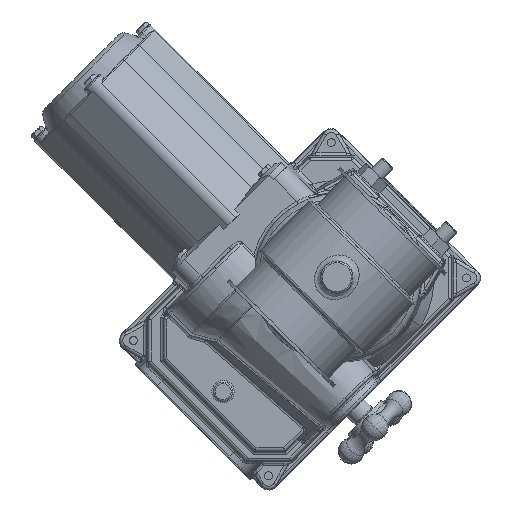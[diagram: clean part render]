
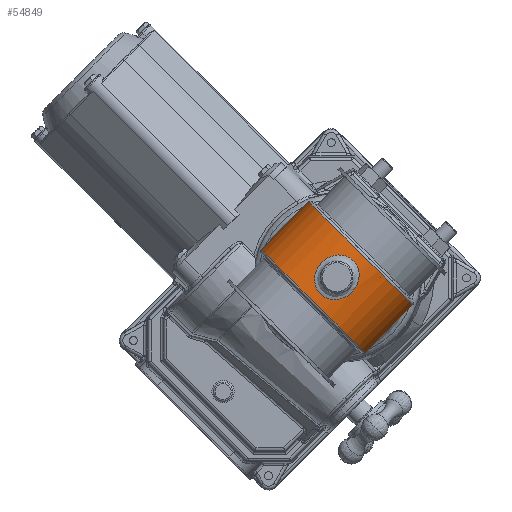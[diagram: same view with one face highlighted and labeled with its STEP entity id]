
A CAD part, top view. The second image highlights one B-rep face of the part: STEP entity #54849.
In plain terms, the highlighted cylindrical face has radius 45.5 mm (diameter 91 mm), a full revolution.
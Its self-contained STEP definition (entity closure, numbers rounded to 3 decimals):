
#54740=CARTESIAN_POINT('',(-53.695,50.041,43.545));
#54741=VERTEX_POINT('',#54740);
#54751=CARTESIAN_POINT('',(-53.697,50.041,43.543));
#54752=CARTESIAN_POINT('',(-53.697,50.041,43.543));
#54753=CARTESIAN_POINT('',(-53.697,50.041,43.543));
#54754=CARTESIAN_POINT('',(-53.697,50.041,43.543));
#54755=CARTESIAN_POINT('',(-53.697,47.872,43.543));
#54756=CARTESIAN_POINT('',(-52.787,43.526,43.834));
#54757=CARTESIAN_POINT('',(-49.03,38.344,44.78));
#54758=CARTESIAN_POINT('',(-43.58,35.426,45.528));
#54759=CARTESIAN_POINT('',(-37.455,35.417,45.532));
#54760=CARTESIAN_POINT('',(-31.99,38.327,44.782));
#54761=CARTESIAN_POINT('',(-28.646,42.923,43.945));
#54762=CARTESIAN_POINT('',(-27.258,47.815,43.532));
#54763=CARTESIAN_POINT('',(-27.255,52.242,43.529));
#54764=CARTESIAN_POINT('',(-28.83,57.849,44.004));
#54765=CARTESIAN_POINT('',(-32.539,62.232,44.908));
#54766=CARTESIAN_POINT('',(-38.116,64.658,45.53));
#54767=CARTESIAN_POINT('',(-43.556,64.662,45.529));
#54768=CARTESIAN_POINT('',(-49.013,61.747,44.782));
#54769=CARTESIAN_POINT('',(-52.779,56.583,43.837));
#54770=CARTESIAN_POINT('',(-53.697,52.21,43.543));
#54771=CARTESIAN_POINT('',(-53.697,50.041,43.543));
#54772=B_SPLINE_CURVE_WITH_KNOTS('',3,(#54751,#54752,#54753,#54754,#54755,#54756,#54757,#54758,#54759,#54760,#54761,#54762,#54763,#54764,#54765,#54766,#54767,#54768,#54769,#54770,#54771),.UNSPECIFIED.,.T.,.U.,(4,3,1,1,1,1,1,1,1,1,1,1,1,1,1,1,4),(-6.048,-6.048,-5.616,-5.184,-4.752,-4.32,-3.888,-3.456,-3.168,-2.88,-2.592,-2.016,-1.728,-1.296,-0.864,-0.432,0.),.UNSPECIFIED.);
#54773=EDGE_CURVE('',#54741,#54741,#54772,.T.);
#54778=CARTESIAN_POINT('',(-40.5,50.041,0.0));
#54779=DIRECTION('',(0.,-1.0,0.0));
#54780=DIRECTION('',(1.0,0.0,0.0));
#54781=AXIS2_PLACEMENT_3D('',#54778,#54779,#54780);
#54782=CYLINDRICAL_SURFACE('',#54781,45.5);
#54783=CARTESIAN_POINT('',(5.,71.041,0.0));
#54784=VERTEX_POINT('',#54783);
#54785=CARTESIAN_POINT('',(-40.5,71.041,0.0));
#54786=DIRECTION('',(0.0,-1.0,0.0));
#54787=DIRECTION('',(1.0,0.0,0.0));
#54788=AXIS2_PLACEMENT_3D('',#54785,#54786,#54787);
#54789=CIRCLE('',#54788,45.5);
#54790=EDGE_CURVE('',#54784,#54784,#54789,.T.);
#54791=ORIENTED_EDGE('',*,*,#54790,.T.);
#54792=EDGE_LOOP('',(#54791));
#54793=FACE_OUTER_BOUND('',#54792,.T.);
#54794=CARTESIAN_POINT('',(5.,29.041,0.0));
#54795=VERTEX_POINT('',#54794);
#54796=CARTESIAN_POINT('',(-40.5,29.041,0.0));
#54797=DIRECTION('',(0.0,-1.0,0.0));
#54798=DIRECTION('',(1.0,0.0,0.0));
#54799=AXIS2_PLACEMENT_3D('',#54796,#54797,#54798);
#54800=CIRCLE('',#54799,45.5);
#54801=EDGE_CURVE('',#54795,#54795,#54800,.T.);
#54802=ORIENTED_EDGE('',*,*,#54801,.F.);
#54803=EDGE_LOOP('',(#54802));
#54804=FACE_BOUND('',#54803,.T.);
#54805=CARTESIAN_POINT('',(-50.5,50.041,-44.387));
#54806=VERTEX_POINT('',#54805);
#54807=CARTESIAN_POINT('',(-50.5,50.041,-44.387));
#54808=CARTESIAN_POINT('',(-50.5,48.781,-44.387));
#54809=CARTESIAN_POINT('',(-50.247,47.44,-44.447));
#54810=CARTESIAN_POINT('',(-49.226,44.977,-44.659));
#54811=CARTESIAN_POINT('',(-48.457,43.856,-44.808));
#54812=CARTESIAN_POINT('',(-46.686,42.084,-45.086));
#54813=CARTESIAN_POINT('',(-45.564,41.316,-45.234));
#54814=CARTESIAN_POINT('',(-43.101,40.294,-45.442));
#54815=CARTESIAN_POINT('',(-41.76,40.041,-45.5));
#54816=CARTESIAN_POINT('',(-39.24,40.041,-45.5));
#54817=CARTESIAN_POINT('',(-37.899,40.294,-45.442));
#54818=CARTESIAN_POINT('',(-35.436,41.316,-45.234));
#54819=CARTESIAN_POINT('',(-34.314,42.084,-45.086));
#54820=CARTESIAN_POINT('',(-32.543,43.856,-44.808));
#54821=CARTESIAN_POINT('',(-31.774,44.977,-44.659));
#54822=CARTESIAN_POINT('',(-30.753,47.44,-44.447));
#54823=CARTESIAN_POINT('',(-30.5,48.781,-44.387));
#54824=CARTESIAN_POINT('',(-30.5,51.301,-44.387));
#54825=CARTESIAN_POINT('',(-30.753,52.642,-44.447));
#54826=CARTESIAN_POINT('',(-31.774,55.105,-44.659));
#54827=CARTESIAN_POINT('',(-32.543,56.227,-44.808));
#54828=CARTESIAN_POINT('',(-34.314,57.998,-45.086));
#54829=CARTESIAN_POINT('',(-35.436,58.767,-45.234));
#54830=CARTESIAN_POINT('',(-37.899,59.788,-45.442));
#54831=CARTESIAN_POINT('',(-39.24,60.041,-45.5));
#54832=CARTESIAN_POINT('',(-41.76,60.041,-45.5));
#54833=CARTESIAN_POINT('',(-43.101,59.788,-45.442));
#54834=CARTESIAN_POINT('',(-45.564,58.767,-45.234));
#54835=CARTESIAN_POINT('',(-46.686,57.998,-45.086));
#54836=CARTESIAN_POINT('',(-48.457,56.227,-44.808));
#54837=CARTESIAN_POINT('',(-49.226,55.105,-44.659));
#54838=CARTESIAN_POINT('',(-50.247,52.642,-44.447));
#54839=CARTESIAN_POINT('',(-50.5,51.301,-44.387));
#54840=CARTESIAN_POINT('',(-50.5,50.041,-44.387));
#54841=B_SPLINE_CURVE_WITH_KNOTS('',3,(#54807,#54808,#54809,#54810,#54811,#54812,#54813,#54814,#54815,#54816,#54817,#54818,#54819,#54820,#54821,#54822,#54823,#54824,#54825,#54826,#54827,#54828,#54829,#54830,#54831,#54832,#54833,#54834,#54835,#54836,#54837,#54838,#54839,#54840),.UNSPECIFIED.,.T.,.U.,(4,2,2,2,2,2,2,2,2,2,2,2,2,2,2,2,4),(0.0,0.378,0.756,1.134,1.512,1.89,2.268,2.646,3.024,3.402,3.78,4.158,4.536,4.914,5.292,5.67,6.048),.UNSPECIFIED.);
#54842=EDGE_CURVE('',#54806,#54806,#54841,.T.);
#54843=ORIENTED_EDGE('',*,*,#54842,.T.);
#54844=EDGE_LOOP('',(#54843));
#54845=FACE_BOUND('',#54844,.T.);
#54846=ORIENTED_EDGE('',*,*,#54773,.F.);
#54847=EDGE_LOOP('',(#54846));
#54848=FACE_BOUND('',#54847,.T.);
#54849=ADVANCED_FACE('',(#54793,#54804,#54845,#54848),#54782,.T.);
